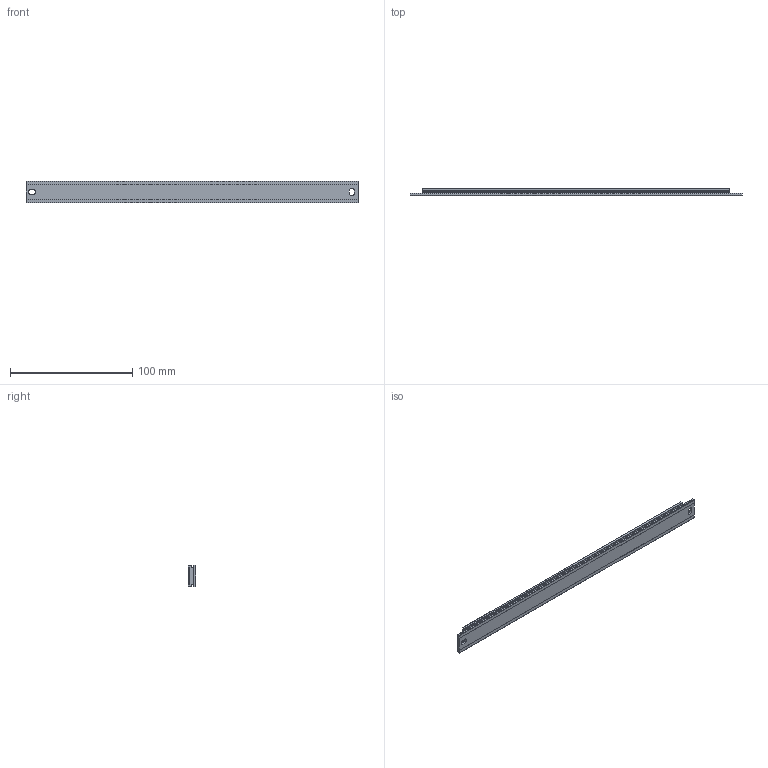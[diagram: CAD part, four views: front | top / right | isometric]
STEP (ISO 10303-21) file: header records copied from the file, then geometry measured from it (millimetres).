
FILE_DESCRIPTION (( 'STEP AP214' ), '1' );
FILE_NAME ('SAScale_exposed.ScaleLneght272.STEP', '2026-03-10T09:09:28', ( '' ), ( '' ), 'SwSTEP 2.0', 'SolidWorks 2024', '' );
FILE_SCHEMA (( 'AUTOMOTIVE_DESIGN' ));
Length unit declared in the file: millimetre
Products named in the file (1): SAScale_exposed.ScaleLneght272
Bounding box: 272 x 6 x 18 mm (x, y, z)
Volume: 25831.5 mm3; surface area: 22730.8 mm2
Topology: 2 solids, 2 shells, 52 faces, 141 edges, 94 vertices
Faces by surface type: plane 37, cylinder 15
Entity records: 2247 total; most frequent: CARTESIAN_POINT 288, ORIENTED_EDGE 282, DIRECTION 277, EDGE_CURVE 141, LINE 111, VECTOR 111, VERTEX_POINT 94, AXIS2_PLACEMENT_3D 83
